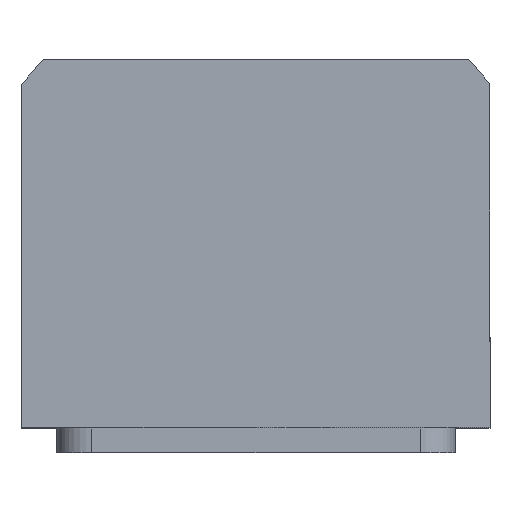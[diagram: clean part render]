
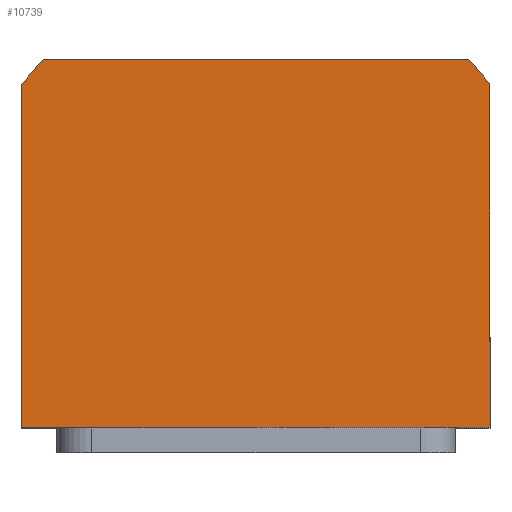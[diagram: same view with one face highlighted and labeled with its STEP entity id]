
A CAD part, top view. The second image highlights one B-rep face of the part: STEP entity #10739.
In plain terms, the highlighted planar face has unit normal (0, 0, 1).
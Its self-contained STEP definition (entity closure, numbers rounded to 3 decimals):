
#89 = EDGE_CURVE ( 'NONE', #6580, #6455, #4286, .T. ) ;
#136 = DIRECTION ( 'NONE',  ( 0., 0., 1. ) ) ;
#669 = VERTEX_POINT ( 'NONE', #8371 ) ;
#903 = ORIENTED_EDGE ( 'NONE', *, *, #13416, .T. ) ;
#921 = AXIS2_PLACEMENT_3D ( 'NONE', #12070, #6482, #9962 ) ;
#1710 = DIRECTION ( 'NONE',  ( 0., 1., 0. ) ) ;
#1942 = VECTOR ( 'NONE', #10521, 1000. ) ;
#2068 = DIRECTION ( 'NONE',  ( 1., 0., 0. ) ) ;
#2582 = EDGE_CURVE ( 'NONE', #6537, #669, #5858, .T. ) ;
#3016 = VECTOR ( 'NONE', #1710, 1000. ) ;
#3384 = CARTESIAN_POINT ( 'NONE',  ( -42.688, 40., 57.5 ) ) ;
#3730 = EDGE_LOOP ( 'NONE', ( #7240, #7355, #5163, #903, #4031, #3790 ) ) ;
#3735 = VECTOR ( 'NONE', #5847, 1000. ) ;
#3785 = CARTESIAN_POINT ( 'NONE',  ( 47., -34., 57.5 ) ) ;
#3790 = ORIENTED_EDGE ( 'NONE', *, *, #2582, .T. ) ;
#3943 = CARTESIAN_POINT ( 'NONE',  ( 47., 34.832, 57.5 ) ) ;
#4031 = ORIENTED_EDGE ( 'NONE', *, *, #8502, .T. ) ;
#4286 = CIRCLE ( 'NONE', #921, 58.5 ) ;
#4335 = DIRECTION ( 'NONE',  ( 0., 0., 1. ) ) ;
#4642 = CARTESIAN_POINT ( 'NONE',  ( -42.688, 40., 57.5 ) ) ;
#5025 = LINE ( 'NONE', #9399, #1942 ) ;
#5163 = ORIENTED_EDGE ( 'NONE', *, *, #89, .T. ) ;
#5272 = EDGE_CURVE ( 'NONE', #669, #8934, #5025, .T. ) ;
#5385 = CARTESIAN_POINT ( 'NONE',  ( -47., 34.832, 57.5 ) ) ;
#5847 = DIRECTION ( 'NONE',  ( -1., 0., 0. ) ) ;
#5858 = LINE ( 'NONE', #9017, #11991 ) ;
#6455 = VERTEX_POINT ( 'NONE', #10839 ) ;
#6482 = DIRECTION ( 'NONE',  ( 0., 0., 1. ) ) ;
#6537 = VERTEX_POINT ( 'NONE', #5385 ) ;
#6580 = VERTEX_POINT ( 'NONE', #10703 ) ;
#7240 = ORIENTED_EDGE ( 'NONE', *, *, #5272, .T. ) ;
#7355 = ORIENTED_EDGE ( 'NONE', *, *, #13324, .T. ) ;
#7541 = LINE ( 'NONE', #4642, #3735 ) ;
#7916 = VERTEX_POINT ( 'NONE', #3384 ) ;
#7987 = DIRECTION ( 'NONE',  ( 0., -1., 0. ) ) ;
#8003 = DIRECTION ( 'NONE',  ( 1., 0., 0. ) ) ;
#8213 = FACE_OUTER_BOUND ( 'NONE', #3730, .T. ) ;
#8371 = CARTESIAN_POINT ( 'NONE',  ( -47., -34., 57.5 ) ) ;
#8502 = EDGE_CURVE ( 'NONE', #7916, #6537, #14370, .T. ) ;
#8934 = VERTEX_POINT ( 'NONE', #3785 ) ;
#9017 = CARTESIAN_POINT ( 'NONE',  ( -47., -34., 57.5 ) ) ;
#9227 = PLANE ( 'NONE',  #11320 ) ;
#9399 = CARTESIAN_POINT ( 'NONE',  ( 47., -34., 57.5 ) ) ;
#9790 = AXIS2_PLACEMENT_3D ( 'NONE', #13227, #4335, #2068 ) ;
#9962 = DIRECTION ( 'NONE',  ( 1., 0., 0. ) ) ;
#10521 = DIRECTION ( 'NONE',  ( 1., 0., 0. ) ) ;
#10703 = CARTESIAN_POINT ( 'NONE',  ( 47., 34.832, 57.5 ) ) ;
#10739 = ADVANCED_FACE ( 'NONE', ( #8213 ), #9227, .T. ) ;
#10839 = CARTESIAN_POINT ( 'NONE',  ( 42.688, 40., 57.5 ) ) ;
#11320 = AXIS2_PLACEMENT_3D ( 'NONE', #11455, #136, #8003 ) ;
#11455 = CARTESIAN_POINT ( 'NONE',  ( 0., 0., 57.5 ) ) ;
#11991 = VECTOR ( 'NONE', #7987, 1000. ) ;
#12070 = CARTESIAN_POINT ( 'NONE',  ( 0., 0., 57.5 ) ) ;
#13112 = LINE ( 'NONE', #3943, #3016 ) ;
#13227 = CARTESIAN_POINT ( 'NONE',  ( 0., 0., 57.5 ) ) ;
#13324 = EDGE_CURVE ( 'NONE', #8934, #6580, #13112, .T. ) ;
#13416 = EDGE_CURVE ( 'NONE', #6455, #7916, #7541, .T. ) ;
#14370 = CIRCLE ( 'NONE', #9790, 58.5 ) ;
